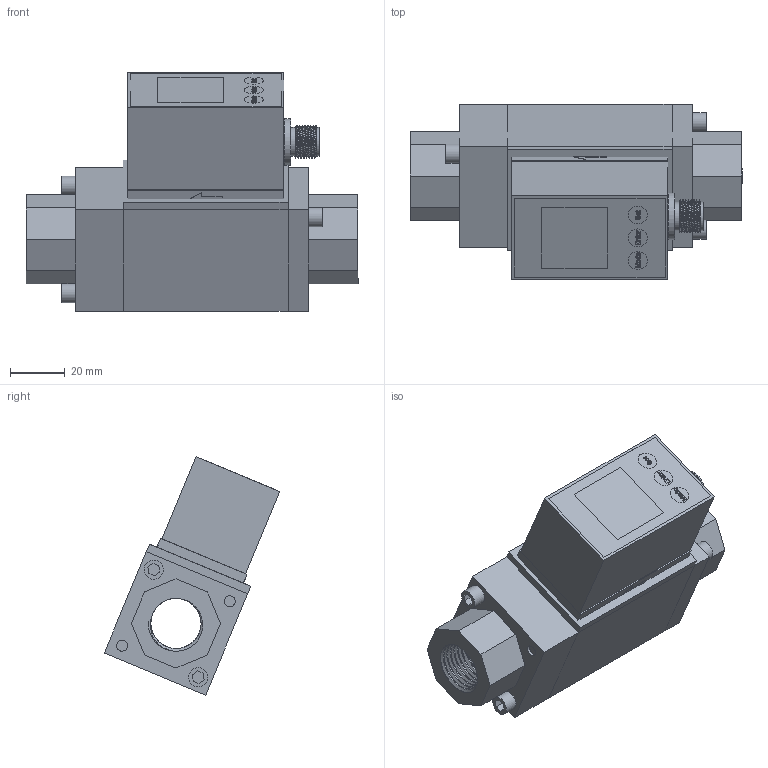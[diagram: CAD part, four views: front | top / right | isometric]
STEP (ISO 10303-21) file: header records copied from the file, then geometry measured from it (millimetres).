
FILE_DESCRIPTION (( 'STEP AP203' ), '1' );
FILE_NAME ('苤講最NPT12.STEP', '2024-07-12T01:28:17', ( '' ), ( '' ), 'SwSTEP 2.0', 'SolidWorks 2023', '' );
FILE_SCHEMA (( 'CONFIG_CONTROL_DESIGN' ));
Length unit declared in the file: millimetre
Products named in the file (9): 04-M12针套（5针）; 01-基座; NPT12进水口; 小量程NPT12; 08-固定螺栓; NPT12主体; NPT12出水口; 02-显示模块; 03-M12盘装插座
Assembly tree (11 placements, depth 2):
  小量程NPT12
    01-基座
    02-显示模块
    03-M12盘装插座
    04-M12针套（5针）
    08-固定螺栓  x4
    NPT12出水口
    NPT12进水口
    NPT12主体
Bounding box: 121 x 63.97 x 86.87 mm (x, y, z)
Volume: 206322.5 mm3; surface area: 60694.5 mm2
Topology: 11 solids, 11 shells, 385 faces, 962 edges, 643 vertices
Faces by surface type: plane 232, bspline 90, cylinder 55, torus 8
Full cylindrical faces by diameter (mm): 1 x5, 4 x16, 7 x7, 9 x1, 9.5 x2, 10.5 x2, 12 x2, 17 x1, 18.3 x17
Entity records: 19065 total; most frequent: CARTESIAN_POINT 10705, ORIENTED_EDGE 1594, DIRECTION 1192, EDGE_CURVE 797, VERTEX_POINT 556, VECTOR 520, LINE 520, EDGE_LOOP 445
